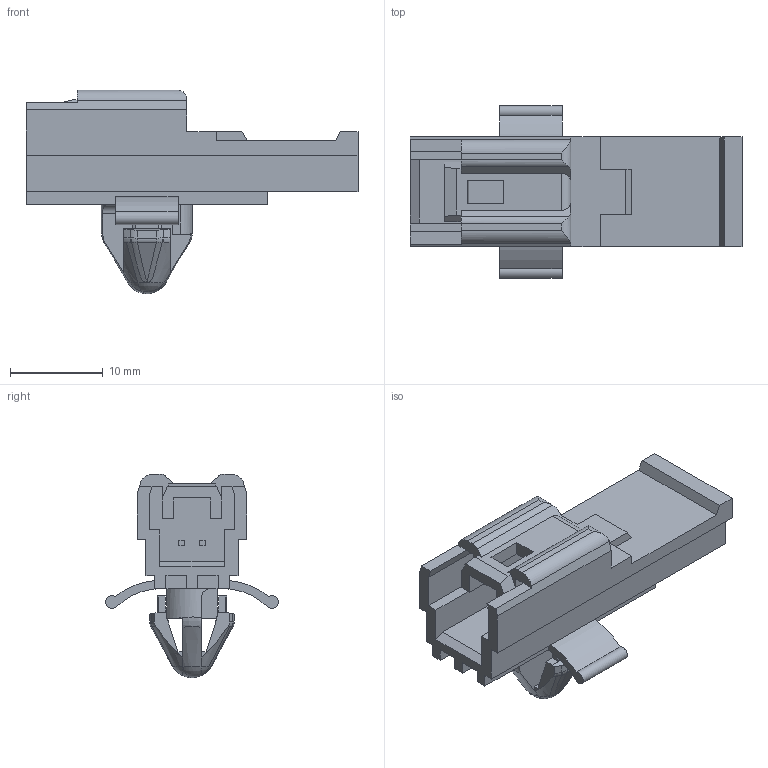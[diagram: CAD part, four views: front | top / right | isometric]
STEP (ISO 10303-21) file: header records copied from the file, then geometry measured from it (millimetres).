
FILE_DESCRIPTION(('CATIA V5 STEP Exchange','CAx-IF Rec.Pracs.--- Model Styling and Organization---1.2---2011-12-15'),'2;1');
FILE_NAME('N:\C-DAM_MyDesk\ENV\900093\6098-4567.stp','2015-06-24T04:31:35+00:00',('none'),('none'),'CATIA Version 5-6 Release 2012 SP4 HF74','CATIA V5 STEP AP214','none');
FILE_SCHEMA(('AUTOMOTIVE_DESIGN { 1 0 10303 214 1 1 1 1 }'));
Length unit declared in the file: millimetre
Products named in the file (1): 6098-4567
Bounding box: 35.7 x 18.6 x 21.9 mm (x, y, z)
Volume: 2710.5 mm3; surface area: 2937.9 mm2
Topology: 1 solids, 1 shells, 208 faces, 572 edges, 363 vertices
Faces by surface type: plane 130, cylinder 35, bspline 22, cone 9, sphere 8, torus 4
Entity records: 7495 total; most frequent: CARTESIAN_POINT 2720, ORIENTED_EDGE 1128, DIRECTION 734, EDGE_CURVE 564, VECTOR 385, LINE 385, VERTEX_POINT 363, EDGE_LOOP 215
